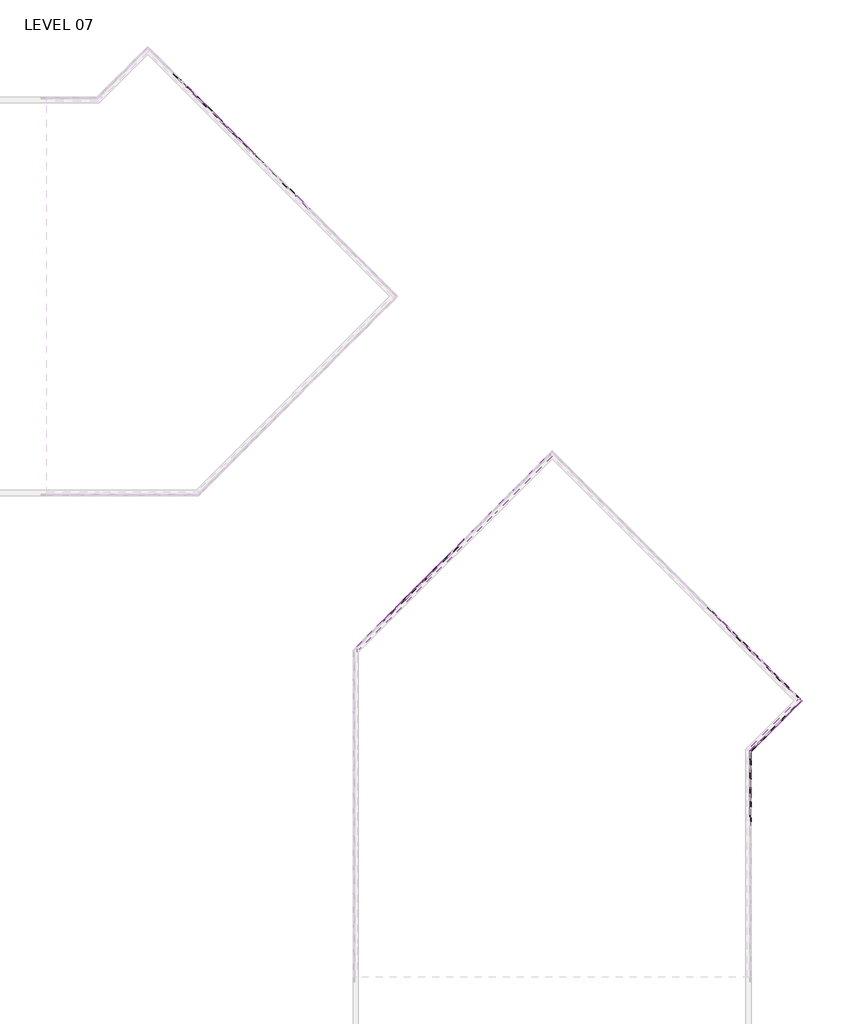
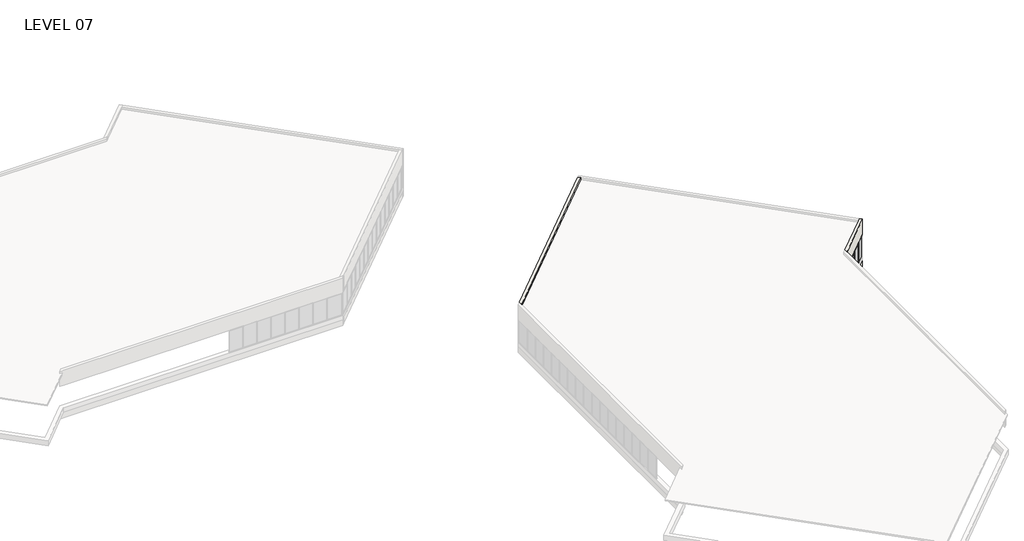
# One storey, part 17 of 18: 73 members, 28 plates, 4 walls.
"""IFC4 building model written with IfcOpenShell, lengths in millimetres."""

from ifc_helpers import new_model, si_unit, origin, place, context, project, spatial, faceted_brep, transform, mapped, element, save
from components import member_5247f267, member_e44af9ab, member_c23f844a, member_800970d4, member_45eb7f2e, member_53409b32, member_43bac76b, member_0b71a88d, plate_67294edd, plate_50b9cd61, plate_048e4634, plate_dca6a18a, plate_aaac5d3d, plate_9c66726c, plate_e0fd5134, plate_15429445, plate_0d1907f3, plate_903242d9

model = new_model("IFC4")

# Units and contexts
model_context = context("Model", 3, world=origin())
ifc_project = project(units=[si_unit("LENGTHUNIT", "METRE", prefix="MILLI")], contexts=[model_context])

# Site, building, storey
site = spatial("IfcSite", under=ifc_project)
building = spatial("IfcBuilding", under=site)
storey = spatial("IfcBuildingStorey", under=building, Name="LEVEL 07", Elevation=23368.0)

# Members
placement = place(None, origin())
member_shape = member_5247f267(model_context)
element("IfcMember", 1, ObjectType="Rectangular Mullion : 2\" x 4.5\" rectangular", at=placement, inside=storey, context=model_context, shape_type="MappedRepresentation", body=[
    mapped(member_shape, transform((56684.0325556, 112485.575885, 23368.0), x_axis=(0.0, 0.0, -1.0), y_axis=(0.7071067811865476, 0.7071067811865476, 0.0), z_axis=(0.7071067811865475, -0.7071067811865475, 0.0))),
])
element("IfcMember", 2, ObjectType="Rectangular Mullion : 2\" x 4.5\" rectangular", at=placement, inside=storey, context=model_context, shape_type="MappedRepresentation", body=[
    mapped(member_shape, transform((50242.2689164, 118927.3395242, 23368.0), x_axis=(0.0, 0.0, -1.0), y_axis=(0.7071067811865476, 0.7071067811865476, 0.0), z_axis=(0.7071067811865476, -0.7071067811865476, 0.0))),
])
element("IfcMember", 3, ObjectType="Rectangular Mullion : 2\" x 4.5\" rectangular", at=placement, inside=storey, context=model_context, shape_type="MappedRepresentation", body=[
    mapped(member_shape, transform((49164.6381819, 120004.9702587, 23368.0), x_axis=(0.0, 0.0, -1.0), y_axis=(0.7071067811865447, 0.7071067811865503, 0.0), z_axis=(0.7071067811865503, -0.7071067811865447, 0.0))),
])
element("IfcMember", 4, ObjectType="Rectangular Mullion : 2\" x 4.5\" rectangular", at=placement, inside=storey, context=model_context, shape_type="MappedRepresentation", body=[
    mapped(member_shape, transform((48087.0074473, 121082.6009932, 23368.0), x_axis=(0.0, 0.0, -1.0), y_axis=(0.7071067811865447, 0.7071067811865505, 0.0), z_axis=(0.7071067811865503, -0.7071067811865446, 0.0))),
])
element("IfcMember", 5, ObjectType="Rectangular Mullion : 2\" x 4.5\" rectangular", at=placement, inside=storey, context=model_context, shape_type="MappedRepresentation", body=[
    mapped(member_shape, transform((56719.9535801, 112449.6548605, 25958.8), x_axis=(0.0, 0.0, 1.0), y_axis=(0.7071067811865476, 0.7071067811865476, 0.0), z_axis=(-0.7071067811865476, 0.7071067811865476, 0.0))),
])
element("IfcMember", 6, ObjectType="Rectangular Mullion : 2\" x 4.5\" rectangular", at=placement, inside=storey, context=model_context, shape_type="MappedRepresentation", body=[
    mapped(member_shape, transform((49200.5592064, 119969.0492342, 25958.8), x_axis=(0.0, 0.0, 1.0), y_axis=(0.7071067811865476, 0.7071067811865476, 0.0), z_axis=(-0.7071067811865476, 0.7071067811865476, 0.0))),
])
element("IfcMember", 7, ObjectType="Rectangular Mullion : 2\" x 4.5\" rectangular", at=placement, inside=storey, context=model_context, shape_type="MappedRepresentation", body=[
    mapped(member_shape, transform((48122.9284718, 121046.6799687, 25958.8), x_axis=(0.0, 0.0, 1.0), y_axis=(0.7071067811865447, 0.7071067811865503, 0.0), z_axis=(-0.7071067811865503, 0.7071067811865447, 0.0))),
])
member_2_shape = member_e44af9ab(model_context)
element("IfcMember", 8, ObjectType="Rectangular Mullion : 2\" x 4.5\" rectangular", at=placement, inside=storey, context=model_context, shape_type="MappedRepresentation", body=[
    mapped(member_2_shape, transform((56701.9930678, 112467.6153727, 23368.0), x_axis=(-0.7071067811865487, 0.7071067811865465, 0.0), y_axis=(0.7071067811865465, 0.7071067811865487, 0.0), z_axis=(0.0, 0.0, -1.0))),
])
element("IfcMember", 9, ObjectType="Rectangular Mullion : 2\" x 4.5\" rectangular", at=placement, inside=storey, context=model_context, shape_type="MappedRepresentation", body=[
    mapped(member_2_shape, transform((52403.5162482, 116766.0921923, 23368.0), x_axis=(-0.7071067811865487, 0.7071067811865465, 0.0), y_axis=(0.7071067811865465, 0.7071067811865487, 0.0), z_axis=(0.0, 0.0, -1.0))),
])
element("IfcMember", 10, ObjectType="Rectangular Mullion : 2\" x 4.5\" rectangular", at=placement, inside=storey, context=model_context, shape_type="MappedRepresentation", body=[
    mapped(member_2_shape, transform((51331.8728384, 117837.7356021, 23368.0), x_axis=(-0.7071067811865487, 0.7071067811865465, 0.0), y_axis=(0.7071067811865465, 0.7071067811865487, 0.0), z_axis=(0.0, 0.0, -1.0))),
])
element("IfcMember", 11, ObjectType="Rectangular Mullion : 2\" x 4.5\" rectangular", at=placement, inside=storey, context=model_context, shape_type="MappedRepresentation", body=[
    mapped(member_2_shape, transform((50260.2294286, 118909.3790119, 23368.0), x_axis=(-0.7071067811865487, 0.7071067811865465, 0.0), y_axis=(0.7071067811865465, 0.7071067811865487, 0.0), z_axis=(0.0, 0.0, -1.0))),
])
element("IfcMember", 12, ObjectType="Rectangular Mullion : 2\" x 4.5\" rectangular", at=placement, inside=storey, context=model_context, shape_type="MappedRepresentation", body=[
    mapped(member_2_shape, transform((49182.5986941, 119987.0097464, 23368.0), x_axis=(-0.7071067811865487, 0.7071067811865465, 0.0), y_axis=(0.7071067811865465, 0.7071067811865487, 0.0), z_axis=(0.0, 0.0, -1.0))),
])
element("IfcMember", 13, ObjectType="Rectangular Mullion : 2\" x 4.5\" rectangular", at=placement, inside=storey, context=model_context, shape_type="MappedRepresentation", body=[
    mapped(member_2_shape, transform((48104.9679596, 121064.640481, 23368.0), x_axis=(-0.7071067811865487, 0.7071067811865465, 0.0), y_axis=(0.7071067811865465, 0.7071067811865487, 0.0), z_axis=(0.0, 0.0, -1.0))),
])
member_3_shape = member_c23f844a(model_context)
element("IfcMember", 14, ObjectType="Rectangular Mullion : 2\" x 4.5\" rectangular", at=placement, inside=storey, context=model_context, shape_type="MappedRepresentation", body=[
    mapped(member_3_shape, transform((52421.4767605, 116748.1316801, 25958.8), x_axis=(0.0, 0.0, 1.0), y_axis=(0.7071067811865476, 0.7071067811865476, 0.0), z_axis=(-0.7071067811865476, 0.7071067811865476, 0.0))),
])
element("IfcMember", 15, ObjectType="Rectangular Mullion : 2\" x 4.5\" rectangular", at=placement, inside=storey, context=model_context, shape_type="MappedRepresentation", body=[
    mapped(member_3_shape, transform((51349.8333507, 117819.7750899, 25958.8), x_axis=(0.0, 0.0, 1.0), y_axis=(0.7071067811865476, 0.7071067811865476, 0.0), z_axis=(-0.7071067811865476, 0.7071067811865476, 0.0))),
])
element("IfcMember", 16, ObjectType="Rectangular Mullion : 2\" x 4.5\" rectangular", at=placement, inside=storey, context=model_context, shape_type="MappedRepresentation", body=[
    mapped(member_3_shape, transform((50278.1899409, 118891.4184997, 25958.8), x_axis=(0.0, 0.0, 1.0), y_axis=(0.7071067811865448, 0.7071067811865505, 0.0), z_axis=(-0.7071067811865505, 0.7071067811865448, 0.0))),
])
element("IfcMember", 17, ObjectType="Rectangular Mullion : 2\" x 4.5\" rectangular", at=placement, inside=storey, context=model_context, shape_type="MappedRepresentation", body=[
    mapped(member_3_shape, transform((52385.555736, 116784.0527046, 23368.0), x_axis=(0.0, 0.0, -1.0), y_axis=(0.7071067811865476, 0.7071067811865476, 0.0), z_axis=(0.7071067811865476, -0.7071067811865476, 0.0))),
])
element("IfcMember", 18, ObjectType="Rectangular Mullion : 2\" x 4.5\" rectangular", at=placement, inside=storey, context=model_context, shape_type="MappedRepresentation", body=[
    mapped(member_3_shape, transform((51313.9123262, 117855.6961144, 23368.0), x_axis=(0.0, 0.0, -1.0), y_axis=(0.7071067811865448, 0.7071067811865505, 0.0), z_axis=(0.7071067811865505, -0.7071067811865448, 0.0))),
])
element("IfcMember", 19, ObjectType="Rectangular Mullion : 2\" x 4.5\" rectangular", at=placement, inside=storey, context=model_context, shape_type="MappedRepresentation", body=[
    mapped(member_shape, transform((92435.9347164, 65925.3675885, 25958.8), x_axis=(0.0, 0.0, 1.0), y_axis=(-1.0, 0.0, 0.0), z_axis=(0.0, -1.0, 0.0))),
])
element("IfcMember", 20, ObjectType="Rectangular Mullion : 2\" x 4.5\" rectangular", at=placement, inside=storey, context=model_context, shape_type="MappedRepresentation", body=[
    mapped(member_shape, transform((92435.9347164, 64401.3675885, 25958.8), x_axis=(0.0, 0.0, 1.0), y_axis=(-1.0, 0.0, 0.0), z_axis=(0.0, -1.0, 0.0))),
])
element("IfcMember", 21, ObjectType="Rectangular Mullion : 2\" x 4.5\" rectangular", at=placement, inside=storey, context=model_context, shape_type="MappedRepresentation", body=[
    mapped(member_shape, transform((64595.6050033, 80065.494011, 25958.8), x_axis=(0.0, 0.0, 1.0), y_axis=(0.7071067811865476, -0.7071067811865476, 0.0), z_axis=(0.7071067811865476, 0.7071067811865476, 0.0))),
])
element("IfcMember", 22, ObjectType="Rectangular Mullion : 2\" x 4.5\" rectangular", at=placement, inside=storey, context=model_context, shape_type="MappedRepresentation", body=[
    mapped(member_shape, transform((65673.2357378, 81143.1247456, 25958.8), x_axis=(0.0, 0.0, 1.0), y_axis=(0.7071067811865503, -0.7071067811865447, 0.0), z_axis=(0.7071067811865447, 0.7071067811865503, 0.0))),
])
element("IfcMember", 23, ObjectType="Rectangular Mullion : 2\" x 4.5\" rectangular", at=placement, inside=storey, context=model_context, shape_type="MappedRepresentation", body=[
    mapped(member_shape, transform((67828.4824051, 83298.3714129, 25958.8), x_axis=(0.0, 0.0, 1.0), y_axis=(0.7071067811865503, -0.7071067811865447, 0.0), z_axis=(0.7071067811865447, 0.7071067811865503, 0.0))),
])
element("IfcMember", 24, ObjectType="Rectangular Mullion : 2\" x 4.5\" rectangular", at=placement, inside=storey, context=model_context, shape_type="MappedRepresentation", body=[
    mapped(member_shape, transform((68906.0983379, 84375.9873457, 25958.8), x_axis=(0.0, 0.0, 1.0), y_axis=(0.7071067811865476, -0.7071067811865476, 0.0), z_axis=(0.7071067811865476, 0.7071067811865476, 0.0))),
])
element("IfcMember", 25, ObjectType="Rectangular Mullion : 2\" x 4.5\" rectangular", at=placement, inside=storey, context=model_context, shape_type="MappedRepresentation", body=[
    mapped(member_shape, transform((66750.8590715, 82220.7480792, 25958.8), x_axis=(0.0, 0.0, 1.0), y_axis=(0.7071067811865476, -0.7071067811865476, 0.0), z_axis=(0.7071067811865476, 0.7071067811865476, 0.0))),
])
element("IfcMember", 26, ObjectType="Rectangular Mullion : 2\" x 4.5\" rectangular", at=placement, inside=storey, context=model_context, shape_type="MappedRepresentation", body=[
    mapped(member_shape, transform((92277.0316457, 76892.5767949, 25958.8), x_axis=(0.0, 0.0, 1.0), y_axis=(-0.7071067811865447, -0.7071067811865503, 0.0), z_axis=(0.7071067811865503, -0.7071067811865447, 0.0))),
])
element("IfcMember", 27, ObjectType="Rectangular Mullion : 2\" x 4.5\" rectangular", at=placement, inside=storey, context=model_context, shape_type="MappedRepresentation", body=[
    mapped(member_shape, transform((93354.6623802, 75814.9460603, 25958.8), x_axis=(0.0, 0.0, 1.0), y_axis=(-0.7071067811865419, -0.7071067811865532, 0.0), z_axis=(0.7071067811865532, -0.7071067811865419, 0.0))),
])
element("IfcMember", 28, ObjectType="Rectangular Mullion : 2\" x 4.5\" rectangular", at=placement, inside=storey, context=model_context, shape_type="MappedRepresentation", body=[
    mapped(member_shape, transform((94432.2931147, 74737.3153258, 25958.8), x_axis=(0.0, 0.0, 1.0), y_axis=(-0.7071067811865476, -0.7071067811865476, 0.0), z_axis=(0.7071067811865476, -0.7071067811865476, 0.0))),
])
element("IfcMember", 29, ObjectType="Rectangular Mullion : 2\" x 4.5\" rectangular", at=placement, inside=storey, context=model_context, shape_type="MappedRepresentation", body=[
    mapped(member_shape, transform((95509.9238493, 73659.6845913, 25958.8), x_axis=(0.0, 0.0, 1.0), y_axis=(-0.7071067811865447, -0.7071067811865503, 0.0), z_axis=(0.7071067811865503, -0.7071067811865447, 0.0))),
])
element("IfcMember", 30, ObjectType="Rectangular Mullion : 2\" x 4.5\" rectangular", at=placement, inside=storey, context=model_context, shape_type="MappedRepresentation", body=[
    mapped(member_shape, transform((94441.1847655, 70787.511502, 25958.8), x_axis=(0.0, 0.0, 1.0), y_axis=(-0.7071067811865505, 0.7071067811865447, 0.0), z_axis=(-0.7071067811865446, -0.7071067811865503, 0.0))),
])
element("IfcMember", 31, ObjectType="Rectangular Mullion : 2\" x 4.5\" rectangular", at=placement, inside=storey, context=model_context, shape_type="MappedRepresentation", body=[
    mapped(member_shape, transform((93363.554031, 69709.8807675, 25958.8), x_axis=(0.0, 0.0, 1.0), y_axis=(-0.7071067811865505, 0.7071067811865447, 0.0), z_axis=(-0.7071067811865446, -0.7071067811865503, 0.0))),
])
element("IfcMember", 32, ObjectType="Rectangular Mullion : 2\" x 4.5\" rectangular", at=placement, inside=storey, context=model_context, shape_type="MappedRepresentation", body=[
    mapped(member_shape, transform((92435.9347164, 67398.5675885, 23368.0), x_axis=(0.0, 0.0, -1.0), y_axis=(-1.0, 0.0, 0.0), z_axis=(0.0, 1.0, 0.0))),
])
element("IfcMember", 33, ObjectType="Rectangular Mullion : 2\" x 4.5\" rectangular", at=placement, inside=storey, context=model_context, shape_type="MappedRepresentation", body=[
    mapped(member_shape, transform((92435.9347164, 65874.5675885, 23368.0), x_axis=(0.0, 0.0, -1.0), y_axis=(-1.0, 0.0, 0.0), z_axis=(0.0, 1.0, 0.0))),
])
element("IfcMember", 34, ObjectType="Rectangular Mullion : 2\" x 4.5\" rectangular", at=placement, inside=storey, context=model_context, shape_type="MappedRepresentation", body=[
    mapped(member_shape, transform((92435.9347164, 64350.5675885, 23368.0), x_axis=(0.0, 0.0, -1.0), y_axis=(-1.0, 0.0, 0.0), z_axis=(0.0, 1.0, 0.0))),
])
element("IfcMember", 35, ObjectType="Rectangular Mullion : 2\" x 4.5\" rectangular", at=placement, inside=storey, context=model_context, shape_type="MappedRepresentation", body=[
    mapped(member_shape, transform((64631.5260278, 80101.4150355, 23368.0), x_axis=(0.0, 0.0, -1.0), y_axis=(0.7071067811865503, -0.7071067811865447, 0.0), z_axis=(-0.7071067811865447, -0.7071067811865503, 0.0))),
])
element("IfcMember", 36, ObjectType="Rectangular Mullion : 2\" x 4.5\" rectangular", at=placement, inside=storey, context=model_context, shape_type="MappedRepresentation", body=[
    mapped(member_shape, transform((65709.1567623, 81179.04577, 23368.0), x_axis=(0.0, 0.0, -1.0), y_axis=(0.7071067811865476, -0.7071067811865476, 0.0), z_axis=(-0.7071067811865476, -0.7071067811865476, 0.0))),
])
element("IfcMember", 37, ObjectType="Rectangular Mullion : 2\" x 4.5\" rectangular", at=placement, inside=storey, context=model_context, shape_type="MappedRepresentation", body=[
    mapped(member_shape, transform((67864.4034296, 83334.2924374, 23368.0), x_axis=(0.0, 0.0, -1.0), y_axis=(0.7071067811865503, -0.7071067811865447, 0.0), z_axis=(-0.7071067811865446, -0.7071067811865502, 0.0))),
])
element("IfcMember", 38, ObjectType="Rectangular Mullion : 2\" x 4.5\" rectangular", at=placement, inside=storey, context=model_context, shape_type="MappedRepresentation", body=[
    mapped(member_shape, transform((68942.0193624, 84411.9083702, 23368.0), x_axis=(0.0, 0.0, -1.0), y_axis=(0.7071067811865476, -0.7071067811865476, 0.0), z_axis=(-0.7071067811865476, -0.7071067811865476, 0.0))),
])
element("IfcMember", 39, ObjectType="Rectangular Mullion : 2\" x 4.5\" rectangular", at=placement, inside=storey, context=model_context, shape_type="MappedRepresentation", body=[
    mapped(member_shape, transform((66786.780096, 82256.6691037, 23368.0), x_axis=(0.0, 0.0, -1.0), y_axis=(0.7071067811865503, -0.7071067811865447, 0.0), z_axis=(-0.7071067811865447, -0.7071067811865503, 0.0))),
])
element("IfcMember", 40, ObjectType="Rectangular Mullion : 2\" x 4.5\" rectangular", at=placement, inside=storey, context=model_context, shape_type="MappedRepresentation", body=[
    mapped(member_shape, transform((91235.3219356, 77934.2865049, 23368.0), x_axis=(0.0, 0.0, -1.0), y_axis=(-0.7071067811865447, -0.7071067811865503, 0.0), z_axis=(-0.7071067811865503, 0.7071067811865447, 0.0))),
])
element("IfcMember", 41, ObjectType="Rectangular Mullion : 2\" x 4.5\" rectangular", at=placement, inside=storey, context=model_context, shape_type="MappedRepresentation", body=[
    mapped(member_shape, transform((92312.9526702, 76856.6557704, 23368.0), x_axis=(0.0, 0.0, -1.0), y_axis=(-0.7071067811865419, -0.7071067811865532, 0.0), z_axis=(-0.7071067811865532, 0.7071067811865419, 0.0))),
])
element("IfcMember", 42, ObjectType="Rectangular Mullion : 2\" x 4.5\" rectangular", at=placement, inside=storey, context=model_context, shape_type="MappedRepresentation", body=[
    mapped(member_shape, transform((93390.5834047, 75779.0250359, 23368.0), x_axis=(0.0, 0.0, -1.0), y_axis=(-0.7071067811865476, -0.7071067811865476, 0.0), z_axis=(-0.7071067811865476, 0.7071067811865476, 0.0))),
])
element("IfcMember", 43, ObjectType="Rectangular Mullion : 2\" x 4.5\" rectangular", at=placement, inside=storey, context=model_context, shape_type="MappedRepresentation", body=[
    mapped(member_shape, transform((94468.2141392, 74701.3943013, 23368.0), x_axis=(0.0, 0.0, -1.0), y_axis=(-0.7071067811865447, -0.7071067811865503, 0.0), z_axis=(-0.7071067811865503, 0.7071067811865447, 0.0))),
])
element("IfcMember", 44, ObjectType="Rectangular Mullion : 2\" x 4.5\" rectangular", at=placement, inside=storey, context=model_context, shape_type="MappedRepresentation", body=[
    mapped(member_shape, transform((94405.263741, 70751.5904775, 23368.0), x_axis=(0.0, 0.0, -1.0), y_axis=(-0.7071067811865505, 0.7071067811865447, 0.0), z_axis=(0.7071067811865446, 0.7071067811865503, 0.0))),
])
element("IfcMember", 45, ObjectType="Rectangular Mullion : 2\" x 4.5\" rectangular", at=placement, inside=storey, context=model_context, shape_type="MappedRepresentation", body=[
    mapped(member_shape, transform((95482.8944756, 71829.221212, 23368.0), x_axis=(0.0, 0.0, -1.0), y_axis=(-0.7071067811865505, 0.7071067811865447, 0.0), z_axis=(0.7071067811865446, 0.7071067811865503, 0.0))),
])
element("IfcMember", 46, ObjectType="Rectangular Mullion : 2\" x 4.5\" rectangular", at=placement, inside=storey, context=model_context, shape_type="MappedRepresentation", body=[
    mapped(member_2_shape, transform((92435.9347164, 67423.9675885, 23368.0), x_axis=(0.0, -1.0, 0.0), y_axis=(-1.0, 0.0, 0.0), z_axis=(0.0, 0.0, -1.0))),
])
element("IfcMember", 47, ObjectType="Rectangular Mullion : 2\" x 4.5\" rectangular", at=placement, inside=storey, context=model_context, shape_type="MappedRepresentation", body=[
    mapped(member_2_shape, transform((92435.9347164, 65899.9675885, 23368.0), x_axis=(0.0, -1.0, 0.0), y_axis=(-1.0, 0.0, 0.0), z_axis=(0.0, 0.0, -1.0))),
])
element("IfcMember", 48, ObjectType="Rectangular Mullion : 2\" x 4.5\" rectangular", at=placement, inside=storey, context=model_context, shape_type="MappedRepresentation", body=[
    mapped(member_2_shape, transform((92435.9347164, 64375.9675885, 23368.0), x_axis=(0.0, -1.0, 0.0), y_axis=(-1.0, 0.0, 0.0), z_axis=(0.0, 0.0, -1.0))),
])
element("IfcMember", 49, ObjectType="Rectangular Mullion : 2\" x 4.5\" rectangular", at=placement, inside=storey, context=model_context, shape_type="MappedRepresentation", body=[
    mapped(member_2_shape, transform((64613.5655155, 80083.4545233, 23368.0), x_axis=(0.7071067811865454, 0.7071067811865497, 0.0), y_axis=(0.7071067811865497, -0.7071067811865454, 0.0), z_axis=(0.0, 0.0, -1.0))),
])
element("IfcMember", 50, ObjectType="Rectangular Mullion : 2\" x 4.5\" rectangular", at=placement, inside=storey, context=model_context, shape_type="MappedRepresentation", body=[
    mapped(member_2_shape, transform((65691.1962501, 81161.0852578, 23368.0), x_axis=(0.7071067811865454, 0.7071067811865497, 0.0), y_axis=(0.7071067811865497, -0.7071067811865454, 0.0), z_axis=(0.0, 0.0, -1.0))),
])
element("IfcMember", 51, ObjectType="Rectangular Mullion : 2\" x 4.5\" rectangular", at=placement, inside=storey, context=model_context, shape_type="MappedRepresentation", body=[
    mapped(member_2_shape, transform((67846.4429174, 83316.3319251, 23368.0), x_axis=(0.7071067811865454, 0.7071067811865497, 0.0), y_axis=(0.7071067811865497, -0.7071067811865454, 0.0), z_axis=(0.0, 0.0, -1.0))),
])
element("IfcMember", 52, ObjectType="Rectangular Mullion : 2\" x 4.5\" rectangular", at=placement, inside=storey, context=model_context, shape_type="MappedRepresentation", body=[
    mapped(member_2_shape, transform((68924.0588502, 84393.9478579, 23368.0), x_axis=(0.7071067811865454, 0.7071067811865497, 0.0), y_axis=(0.7071067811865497, -0.7071067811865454, 0.0), z_axis=(0.0, 0.0, -1.0))),
])
element("IfcMember", 53, ObjectType="Rectangular Mullion : 2\" x 4.5\" rectangular", at=placement, inside=storey, context=model_context, shape_type="MappedRepresentation", body=[
    mapped(member_2_shape, transform((66768.8195837, 82238.7085915, 23368.0), x_axis=(0.7071067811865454, 0.7071067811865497, 0.0), y_axis=(0.7071067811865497, -0.7071067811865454, 0.0), z_axis=(0.0, 0.0, -1.0))),
])
element("IfcMember", 54, ObjectType="Rectangular Mullion : 2\" x 4.5\" rectangular", at=placement, inside=storey, context=model_context, shape_type="MappedRepresentation", body=[
    mapped(member_2_shape, transform((90145.7180136, 79023.890427, 23368.0), x_axis=(0.7071067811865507, -0.7071067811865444, 0.0), y_axis=(-0.7071067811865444, -0.7071067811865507, 0.0), z_axis=(0.0, 0.0, -1.0))),
])
element("IfcMember", 55, ObjectType="Rectangular Mullion : 2\" x 4.5\" rectangular", at=placement, inside=storey, context=model_context, shape_type="MappedRepresentation", body=[
    mapped(member_2_shape, transform((91217.3614234, 77952.2470172, 23368.0), x_axis=(0.7071067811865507, -0.7071067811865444, 0.0), y_axis=(-0.7071067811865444, -0.7071067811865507, 0.0), z_axis=(0.0, 0.0, -1.0))),
])
element("IfcMember", 56, ObjectType="Rectangular Mullion : 2\" x 4.5\" rectangular", at=placement, inside=storey, context=model_context, shape_type="MappedRepresentation", body=[
    mapped(member_2_shape, transform((92294.9921579, 76874.6162826, 23368.0), x_axis=(0.7071067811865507, -0.7071067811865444, 0.0), y_axis=(-0.7071067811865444, -0.7071067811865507, 0.0), z_axis=(0.0, 0.0, -1.0))),
])
element("IfcMember", 57, ObjectType="Rectangular Mullion : 2\" x 4.5\" rectangular", at=placement, inside=storey, context=model_context, shape_type="MappedRepresentation", body=[
    mapped(member_2_shape, transform((93372.6228924, 75796.9855481, 23368.0), x_axis=(0.7071067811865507, -0.7071067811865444, 0.0), y_axis=(-0.7071067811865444, -0.7071067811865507, 0.0), z_axis=(0.0, 0.0, -1.0))),
])
element("IfcMember", 58, ObjectType="Rectangular Mullion : 2\" x 4.5\" rectangular", at=placement, inside=storey, context=model_context, shape_type="MappedRepresentation", body=[
    mapped(member_2_shape, transform((94450.253627, 74719.3548136, 23368.0), x_axis=(0.7071067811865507, -0.7071067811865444, 0.0), y_axis=(-0.7071067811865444, -0.7071067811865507, 0.0), z_axis=(0.0, 0.0, -1.0))),
])
element("IfcMember", 59, ObjectType="Rectangular Mullion : 2\" x 4.5\" rectangular", at=placement, inside=storey, context=model_context, shape_type="MappedRepresentation", body=[
    mapped(member_2_shape, transform((95527.8843615, 73641.724079, 23368.0), x_axis=(0.7071067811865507, -0.7071067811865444, 0.0), y_axis=(-0.7071067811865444, -0.7071067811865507, 0.0), z_axis=(0.0, 0.0, -1.0))),
])
element("IfcMember", 60, ObjectType="Rectangular Mullion : 2\" x 4.5\" rectangular", at=placement, inside=storey, context=model_context, shape_type="MappedRepresentation", body=[
    mapped(member_2_shape, transform((94423.2242533, 70769.5509898, 23368.0), x_axis=(-0.7071067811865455, -0.7071067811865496, 0.0), y_axis=(-0.7071067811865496, 0.7071067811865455, 0.0), z_axis=(0.0, 0.0, -1.0))),
])
element("IfcMember", 61, ObjectType="Rectangular Mullion : 2\" x 4.5\" rectangular", at=placement, inside=storey, context=model_context, shape_type="MappedRepresentation", body=[
    mapped(member_2_shape, transform((93345.5935187, 69691.9202552, 23368.0), x_axis=(-0.7071067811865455, -0.7071067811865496, 0.0), y_axis=(-0.7071067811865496, 0.7071067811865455, 0.0), z_axis=(0.0, 0.0, -1.0))),
])
element("IfcMember", 62, ObjectType="Rectangular Mullion : 2\" x 4.5\" rectangular", at=placement, inside=storey, context=model_context, shape_type="MappedRepresentation", body=[
    mapped(member_2_shape, transform((95500.8549878, 71847.1817243, 23368.0), x_axis=(-0.7071067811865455, -0.7071067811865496, 0.0), y_axis=(-0.7071067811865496, 0.7071067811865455, 0.0), z_axis=(0.0, 0.0, -1.0))),
])
member_4_shape = member_800970d4(model_context)
element("IfcMember", 63, ObjectType="Rectangular Mullion : 2\" x 4.5\" rectangular", at=placement, inside=storey, context=model_context, shape_type="MappedRepresentation", body=[
    mapped(member_4_shape, transform((92435.9347164, 68782.2614529, 23368.0), x_axis=(-0.7071067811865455, -0.7071067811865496, 0.0), y_axis=(-0.7071067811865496, 0.7071067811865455, 0.0), z_axis=(0.0, 0.0, -1.0))),
])
element("IfcMember", 64, ObjectType="Rectangular Mullion : 2\" x 4.5\" rectangular", at=placement, inside=storey, context=model_context, shape_type="MappedRepresentation", body=[
    mapped(member_4_shape, transform((92435.9347164, 68782.2614529, 25958.8), x_axis=(0.0, 1.0, 0.0), y_axis=(-1.0, 0.0, 0.0), z_axis=(0.0, 0.0, 1.0))),
])
element("IfcMember", 65, ObjectType="Rectangular Mullion : 2\" x 4.5\" rectangular", at=placement, inside=storey, context=model_context, shape_type="MappedRepresentation", body=[
    mapped(member_3_shape, transform((90127.7575014, 79041.8509392, 25958.8), x_axis=(0.0, 0.0, 1.0), y_axis=(-0.7071067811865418, -0.7071067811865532, 0.0), z_axis=(0.7071067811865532, -0.7071067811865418, 0.0))),
])
element("IfcMember", 66, ObjectType="Rectangular Mullion : 2\" x 4.5\" rectangular", at=placement, inside=storey, context=model_context, shape_type="MappedRepresentation", body=[
    mapped(member_3_shape, transform((91199.4009111, 77970.2075294, 25958.8), x_axis=(0.0, 0.0, 1.0), y_axis=(-0.7071067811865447, -0.7071067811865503, 0.0), z_axis=(0.7071067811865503, -0.7071067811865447, 0.0))),
])
element("IfcMember", 67, ObjectType="Rectangular Mullion : 2\" x 4.5\" rectangular", at=placement, inside=storey, context=model_context, shape_type="MappedRepresentation", body=[
    mapped(member_3_shape, transform((90163.6785258, 79005.9299147, 23368.0), x_axis=(0.0, 0.0, -1.0), y_axis=(-0.7071067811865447, -0.7071067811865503, 0.0), z_axis=(-0.7071067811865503, 0.7071067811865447, 0.0))),
])
member_5_shape = member_45eb7f2e(model_context)
element("IfcMember", 68, ObjectType="Rectangular Mullion : 2\" x 4.5\" rectangular", at=placement, inside=storey, context=model_context, shape_type="MappedRepresentation", body=[
    mapped(member_5_shape, transform((92435.9347164, 67449.3675885, 25958.8), x_axis=(0.0, 0.0, 1.0), y_axis=(-1.0, 0.0, 0.0), z_axis=(0.0, -1.0, 0.0))),
])
element("IfcMember", 69, ObjectType="Rectangular Mullion : 2\" x 4.5\" rectangular", at=placement, inside=storey, context=model_context, shape_type="MappedRepresentation", body=[
    mapped(member_5_shape, transform((92435.9347164, 68731.4614529, 23368.0), x_axis=(0.0, 0.0, -1.0), y_axis=(-1.0, 0.0, 0.0), z_axis=(0.0, 1.0, 0.0))),
])
member_6_shape = member_53409b32(model_context)
element("IfcMember", 70, ObjectType="Rectangular Mullion : 2\" x 4.5\" rectangular", at=placement, inside=storey, context=model_context, shape_type="MappedRepresentation", body=[
    mapped(member_6_shape, transform((95545.8448737, 73623.7635668, 23368.0), x_axis=(0.0, 0.0, -1.0), y_axis=(-0.7071067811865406, -0.7071067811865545, 0.0), z_axis=(-0.7071067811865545, 0.7071067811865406, 0.0))),
])
member_7_shape = member_43bac76b(model_context)
element("IfcMember", 71, ObjectType="Rectangular Mullion : 2\" x 4.5\" rectangular", at=placement, inside=storey, context=model_context, shape_type="MappedRepresentation", body=[
    mapped(member_7_shape, transform((92471.8557409, 68818.1824774, 25958.8), x_axis=(0.0, 0.0, 1.0), y_axis=(-0.7071067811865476, 0.7071067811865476, 0.0), z_axis=(-0.7071067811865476, -0.7071067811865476, 0.0))),
])
element("IfcMember", 72, ObjectType="Rectangular Mullion : 2\" x 4.5\" rectangular", at=placement, inside=storey, context=model_context, shape_type="MappedRepresentation", body=[
    mapped(member_7_shape, transform((93327.6330065, 69673.959743, 23368.0), x_axis=(0.0, 0.0, -1.0), y_axis=(-0.7071067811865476, 0.7071067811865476, 0.0), z_axis=(0.7071067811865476, 0.7071067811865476, 0.0))),
])
member_8_shape = member_0b71a88d(model_context)
element("IfcMember", 73, ObjectType="Rectangular Mullion : 2\" x 4.5\" rectangular", at=placement, inside=storey, context=model_context, shape_type="MappedRepresentation", body=[
    mapped(member_8_shape, transform((95518.8155, 71865.1422365, 25958.8), x_axis=(0.0, 0.0, 1.0), y_axis=(-0.7071067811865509, 0.7071067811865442, 0.0), z_axis=(-0.7071067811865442, -0.7071067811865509, 0.0))),
])

# Plates
plate_shape = plate_67294edd(model_context)
element("IfcPlate", 74, ObjectType="System Panel : 1/4\" Glass", at=placement, inside=storey, context=model_context, shape_type="MappedRepresentation", body=[
    mapped(plate_shape, transform((49721.4140614, 119448.1943792, 23418.8), x_axis=(-0.7071067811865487, 0.7071067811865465, 0.0), y_axis=(-0.7071067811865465, -0.7071067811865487, 0.0), z_axis=(0.0, 0.0, 1.0))),
])
element("IfcPlate", 75, ObjectType="System Panel : 1/4\" Glass", at=placement, inside=storey, context=model_context, shape_type="MappedRepresentation", body=[
    mapped(plate_shape, transform((48643.7833268, 120525.8251137, 23418.8), x_axis=(-0.7071067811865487, 0.7071067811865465, 0.0), y_axis=(-0.7071067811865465, -0.7071067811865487, 0.0), z_axis=(0.0, 0.0, 1.0))),
])
plate_2_shape = plate_50b9cd61(model_context)
element("IfcPlate", 76, ObjectType="System Panel : 1/4\" Glass", at=placement, inside=storey, context=model_context, shape_type="MappedRepresentation", body=[
    mapped(plate_2_shape, transform((52939.3379531, 116230.2704874, 23418.8), x_axis=(-0.7071067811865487, 0.7071067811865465, 0.0), y_axis=(-0.7071067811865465, -0.7071067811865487, 0.0), z_axis=(0.0, 0.0, 1.0))),
])
element("IfcPlate", 77, ObjectType="System Panel : 1/4\" Glass", at=placement, inside=storey, context=model_context, shape_type="MappedRepresentation", body=[
    mapped(plate_2_shape, transform((51867.6945433, 117301.9138972, 23418.8), x_axis=(-0.7071067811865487, 0.7071067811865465, 0.0), y_axis=(-0.7071067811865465, -0.7071067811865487, 0.0), z_axis=(0.0, 0.0, 1.0))),
])
element("IfcPlate", 78, ObjectType="System Panel : 1/4\" Glass", at=placement, inside=storey, context=model_context, shape_type="MappedRepresentation", body=[
    mapped(plate_2_shape, transform((50796.0511335, 118373.557307, 23418.8), x_axis=(-0.7071067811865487, 0.7071067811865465, 0.0), y_axis=(-0.7071067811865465, -0.7071067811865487, 0.0), z_axis=(0.0, 0.0, 1.0))),
])
plate_3_shape = plate_048e4634(model_context)
element("IfcPlate", 79, ObjectType="System Panel : 1/4\" Glass", at=placement, inside=storey, context=model_context, shape_type="MappedRepresentation", body=[
    mapped(plate_3_shape, transform((56163.1955678, 113006.4128727, 23418.8), x_axis=(-0.7071067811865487, 0.7071067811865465, 0.0), y_axis=(-0.7071067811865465, -0.7071067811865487, 0.0), z_axis=(0.0, 0.0, 1.0))),
])
plate_4_shape = plate_dca6a18a(model_context)
element("IfcPlate", 80, ObjectType="System Panel : 1/4\" Glass", at=placement, inside=storey, context=model_context, shape_type="MappedRepresentation", body=[
    mapped(plate_4_shape, transform((55087.0884654, 114082.5199752, 23418.8), x_axis=(-0.7071067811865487, 0.7071067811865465, 0.0), y_axis=(-0.7071067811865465, -0.7071067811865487, 0.0), z_axis=(0.0, 0.0, 1.0))),
])
element("IfcPlate", 81, ObjectType="System Panel : 1/4\" Glass", at=placement, inside=storey, context=model_context, shape_type="MappedRepresentation", body=[
    mapped(plate_4_shape, transform((54012.4692605, 115157.1391801, 23418.8), x_axis=(-0.7071067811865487, 0.7071067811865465, 0.0), y_axis=(-0.7071067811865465, -0.7071067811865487, 0.0), z_axis=(0.0, 0.0, 1.0))),
])
element("IfcPlate", 82, ObjectType="System Panel : 1/4\" Glass", at=placement, inside=storey, context=model_context, shape_type="MappedRepresentation", body=[
    mapped(plate_shape, transform((92435.9347164, 66661.9675885, 23418.8), x_axis=(0.0, -1.0, 0.0), y_axis=(1.0, 0.0, 0.0), z_axis=(0.0, 0.0, 1.0))),
])
element("IfcPlate", 83, ObjectType="System Panel : 1/4\" Glass", at=placement, inside=storey, context=model_context, shape_type="MappedRepresentation", body=[
    mapped(plate_shape, transform((92435.9347164, 65137.9675885, 23418.8), x_axis=(0.0, -1.0, 0.0), y_axis=(1.0, 0.0, 0.0), z_axis=(0.0, 0.0, 1.0))),
])
element("IfcPlate", 84, ObjectType="System Panel : 1/4\" Glass", at=placement, inside=storey, context=model_context, shape_type="MappedRepresentation", body=[
    mapped(plate_shape, transform((64074.7501483, 79544.639156, 23418.8), x_axis=(0.7071067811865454, 0.7071067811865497, 0.0), y_axis=(-0.7071067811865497, 0.7071067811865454, 0.0), z_axis=(0.0, 0.0, 1.0))),
])
element("IfcPlate", 85, ObjectType="System Panel : 1/4\" Glass", at=placement, inside=storey, context=model_context, shape_type="MappedRepresentation", body=[
    mapped(plate_shape, transform((65152.3808828, 80622.2698905, 23418.8), x_axis=(0.7071067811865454, 0.7071067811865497, 0.0), y_axis=(-0.7071067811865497, 0.7071067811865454, 0.0), z_axis=(0.0, 0.0, 1.0))),
])
element("IfcPlate", 86, ObjectType="System Panel : 1/4\" Glass", at=placement, inside=storey, context=model_context, shape_type="MappedRepresentation", body=[
    mapped(plate_shape, transform((91756.1767907, 77413.4316499, 23418.8), x_axis=(0.7071067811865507, -0.7071067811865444, 0.0), y_axis=(0.7071067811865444, 0.7071067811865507, 0.0), z_axis=(0.0, 0.0, 1.0))),
])
element("IfcPlate", 87, ObjectType="System Panel : 1/4\" Glass", at=placement, inside=storey, context=model_context, shape_type="MappedRepresentation", body=[
    mapped(plate_shape, transform((92833.8075252, 76335.8009154, 23418.8), x_axis=(0.7071067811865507, -0.7071067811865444, 0.0), y_axis=(0.7071067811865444, 0.7071067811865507, 0.0), z_axis=(0.0, 0.0, 1.0))),
])
element("IfcPlate", 88, ObjectType="System Panel : 1/4\" Glass", at=placement, inside=storey, context=model_context, shape_type="MappedRepresentation", body=[
    mapped(plate_shape, transform((93911.4382597, 75258.1701808, 23418.8), x_axis=(0.7071067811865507, -0.7071067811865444, 0.0), y_axis=(0.7071067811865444, 0.7071067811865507, 0.0), z_axis=(0.0, 0.0, 1.0))),
])
element("IfcPlate", 89, ObjectType="System Panel : 1/4\" Glass", at=placement, inside=storey, context=model_context, shape_type="MappedRepresentation", body=[
    mapped(plate_shape, transform((94989.0689942, 74180.5394463, 23418.8), x_axis=(0.7071067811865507, -0.7071067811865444, 0.0), y_axis=(0.7071067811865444, 0.7071067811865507, 0.0), z_axis=(0.0, 0.0, 1.0))),
])
element("IfcPlate", 90, ObjectType="System Panel : 1/4\" Glass", at=placement, inside=storey, context=model_context, shape_type="MappedRepresentation", body=[
    mapped(plate_shape, transform((93884.408886, 70230.7356225, 23418.8), x_axis=(-0.7071067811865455, -0.7071067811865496, 0.0), y_axis=(0.7071067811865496, -0.7071067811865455, 0.0), z_axis=(0.0, 0.0, 1.0))),
])
element("IfcPlate", 91, ObjectType="System Panel : 1/4\" Glass", at=placement, inside=storey, context=model_context, shape_type="MappedRepresentation", body=[
    mapped(plate_shape, transform((94962.0396205, 71308.366357, 23418.8), x_axis=(-0.7071067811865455, -0.7071067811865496, 0.0), y_axis=(0.7071067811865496, -0.7071067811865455, 0.0), z_axis=(0.0, 0.0, 1.0))),
])
plate_5_shape = plate_aaac5d3d(model_context)
element("IfcPlate", 92, ObjectType="System Panel : 1/4\" Glass", at=placement, inside=storey, context=model_context, shape_type="MappedRepresentation", body=[
    mapped(plate_5_shape, transform((68385.2508838, 83855.1398915, 23418.8), x_axis=(0.7071067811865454, 0.7071067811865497, 0.0), y_axis=(-0.7071067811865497, 0.7071067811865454, 0.0), z_axis=(0.0, 0.0, 1.0))),
])
element("IfcPlate", 93, ObjectType="System Panel : 1/4\" Glass", at=placement, inside=storey, context=model_context, shape_type="MappedRepresentation", body=[
    mapped(plate_5_shape, transform((69462.8668166, 84932.7558243, 23418.8), x_axis=(0.7071067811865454, 0.7071067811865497, 0.0), y_axis=(-0.7071067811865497, 0.7071067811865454, 0.0), z_axis=(0.0, 0.0, 1.0))),
])
element("IfcPlate", 94, ObjectType="System Panel : 1/4\" Glass", at=placement, inside=storey, context=model_context, shape_type="MappedRepresentation", body=[
    mapped(plate_2_shape, transform((89609.8963087, 79559.7121319, 23418.8), x_axis=(0.7071067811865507, -0.7071067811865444, 0.0), y_axis=(0.7071067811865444, 0.7071067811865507, 0.0), z_axis=(0.0, 0.0, 1.0))),
])
element("IfcPlate", 95, ObjectType="System Panel : 1/4\" Glass", at=placement, inside=storey, context=model_context, shape_type="MappedRepresentation", body=[
    mapped(plate_2_shape, transform((90681.5397185, 78488.0687221, 23418.8), x_axis=(0.7071067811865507, -0.7071067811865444, 0.0), y_axis=(0.7071067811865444, 0.7071067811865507, 0.0), z_axis=(0.0, 0.0, 1.0))),
])
plate_6_shape = plate_9c66726c(model_context)
element("IfcPlate", 96, ObjectType="System Panel : 1/4\" Glass", at=placement, inside=storey, context=model_context, shape_type="MappedRepresentation", body=[
    mapped(plate_6_shape, transform((92435.9347164, 68090.4145207, 23418.8), x_axis=(0.0, -1.0, 0.0), y_axis=(1.0, 0.0, 0.0), z_axis=(0.0, 0.0, 1.0))),
])
plate_7_shape = plate_e0fd5134(model_context)
element("IfcPlate", 97, ObjectType="System Panel : 1/4\" Glass", at=placement, inside=storey, context=model_context, shape_type="MappedRepresentation", body=[
    mapped(plate_7_shape, transform((66230.0079169, 81699.8969246, 23418.8), x_axis=(0.7071067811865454, 0.7071067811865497, 0.0), y_axis=(-0.7071067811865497, 0.7071067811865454, 0.0), z_axis=(0.0, 0.0, 1.0))),
])
element("IfcPlate", 98, ObjectType="System Panel : 1/4\" Glass", at=placement, inside=storey, context=model_context, shape_type="MappedRepresentation", body=[
    mapped(plate_7_shape, transform((67307.6312505, 82777.5202583, 23418.8), x_axis=(0.7071067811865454, 0.7071067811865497, 0.0), y_axis=(-0.7071067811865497, 0.7071067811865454, 0.0), z_axis=(0.0, 0.0, 1.0))),
])
plate_8_shape = plate_15429445(model_context)
element("IfcPlate", 99, ObjectType="System Panel : 1/4\" Glass", at=placement, inside=storey, context=model_context, shape_type="MappedRepresentation", body=[
    mapped(plate_8_shape, transform((95947.2676638, 72293.5944003, 23418.8), x_axis=(-0.7071067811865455, -0.7071067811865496, 0.0), y_axis=(0.7071067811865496, -0.7071067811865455, 0.0), z_axis=(0.0, 0.0, 1.0))),
])
plate_9_shape = plate_0d1907f3(model_context)
element("IfcPlate", 100, ObjectType="System Panel : 1/4\" Glass", at=placement, inside=storey, context=model_context, shape_type="MappedRepresentation", body=[
    mapped(plate_9_shape, transform((92899.7443737, 69246.0711102, 23418.8), x_axis=(-0.7071067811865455, -0.7071067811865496, 0.0), y_axis=(0.7071067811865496, -0.7071067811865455, 0.0), z_axis=(0.0, 0.0, 1.0))),
])
plate_10_shape = plate_903242d9(model_context)
element("IfcPlate", 101, ObjectType="System Panel : 1/4\" Glass", at=placement, inside=storey, context=model_context, shape_type="MappedRepresentation", body=[
    mapped(plate_10_shape, transform((95960.7823506, 73208.8260899, 23418.8), x_axis=(0.7071067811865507, -0.7071067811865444, 0.0), y_axis=(0.7071067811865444, 0.7071067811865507, 0.0), z_axis=(0.0, 0.0, 1.0))),
])

# Walls
element("IfcWall", 102, ObjectType="01-CONCRETE-12", at=placement, inside=storey, context=model_context, shape_type="Brep", body=[
    faceted_brep([(92493.0847164, 68758.5891478, 22186.9), (96492.4631571, 72757.9675885, 22186.9), (96492.4631571, 72757.9675885, 22809.2), (92493.0847164, 68758.5891478, 22809.2), (92493.0847164, 69189.6414416, 22186.9), (92493.0847164, 69189.6414416, 22809.2), (96061.4108633, 72757.9675885, 22809.2), (96276.9370102, 72973.4937354, 22809.2), (96276.9370102, 72973.4937354, 22186.9), (96061.4108633, 72757.9675885, 22186.9)], [[[0, 1, 2, 3]], [[4, 5, 6, 7, 8, 9]], [[1, 0, 4, 9, 8]], [[3, 2, 7, 6, 5]], [[0, 3, 5, 4]], [[2, 1, 8, 7]]]),
])
element("IfcWall", 103, ObjectType="01-CONCRETE-12", at=placement, inside=storey, context=model_context, shape_type="Brep", body=[
    faceted_brep([(76634.3335695, 92185.0448823, 22186.9), (61511.4347164, 77062.1460292, 22186.9), (61511.4347164, 77062.1460292, 22809.2), (76634.3335695, 92185.0448823, 22809.2), (76849.8597164, 91969.5187354, 22186.9), (76849.8597164, 91969.5187354, 22809.2), (72547.5477899, 87667.2068089, 22809.2), (72116.495496, 87236.1545151, 22809.2), (61801.3557409, 76921.0147599, 22809.2), (61511.4347164, 76631.0937354, 22809.2), (61511.4347164, 76631.0937354, 22186.9), (61801.3557409, 76921.0147599, 22186.9), (72116.495496, 87236.1545151, 22186.9), (72547.5477899, 87667.2068089, 22186.9)], [[[0, 1, 2, 3]], [[4, 5, 6, 7, 8, 9, 10, 11, 12, 13]], [[1, 0, 4, 13, 12, 11, 10]], [[3, 2, 9, 8, 7, 6, 5]], [[0, 3, 5, 4]], [[2, 1, 10, 9]]]),
])
element("IfcWall", 104, ObjectType="01-CONCRETE-12", at=placement, inside=storey, context=model_context, shape_type="Brep", body=[
    faceted_brep([(92493.0847164, 68758.5891478, 25958.8), (96492.4631571, 72757.9675885, 25958.8), (96492.4631571, 72757.9675885, 27673.3), (92493.0847164, 68758.5891478, 27673.3), (92493.0847164, 69189.6414416, 25958.8), (92493.0847164, 69189.6414416, 27673.3), (96061.4108633, 72757.9675885, 27673.3), (96276.9370102, 72973.4937354, 27673.3), (96276.9370102, 72973.4937354, 25958.8), (96061.4108633, 72757.9675885, 25958.8)], [[[0, 1, 2, 3]], [[4, 5, 6, 7, 8, 9]], [[1, 0, 4, 9, 8]], [[3, 2, 7, 6, 5]], [[0, 3, 5, 4]], [[2, 1, 8, 7]]]),
])
element("IfcWall", 105, ObjectType="01-CONCRETE-12", at=placement, inside=storey, context=model_context, shape_type="Brep", body=[
    faceted_brep([(76634.3335695, 92185.0448823, 25958.8), (61511.4347164, 77062.1460292, 25958.8), (61511.4347164, 77062.1460292, 27673.3), (76634.3335695, 92185.0448823, 27673.3), (76849.8597164, 91969.5187354, 25958.8), (76849.8597164, 91969.5187354, 27673.3), (61511.4347164, 76631.0937354, 27673.3), (61511.4347164, 76631.0937354, 26111.2), (61511.4347164, 76631.0937354, 25958.8), (61801.3557409, 76921.0147599, 25958.8), (72116.495496, 87236.1545151, 25958.8), (72547.5477899, 87667.2068089, 25958.8)], [[[0, 1, 2, 3]], [[4, 5, 6, 7, 8, 9, 10, 11]], [[1, 0, 4, 11, 10, 9, 8]], [[3, 2, 6, 5]], [[0, 3, 5, 4]], [[2, 1, 8, 7, 6]]]),
])

save(model, "model.ifc")
